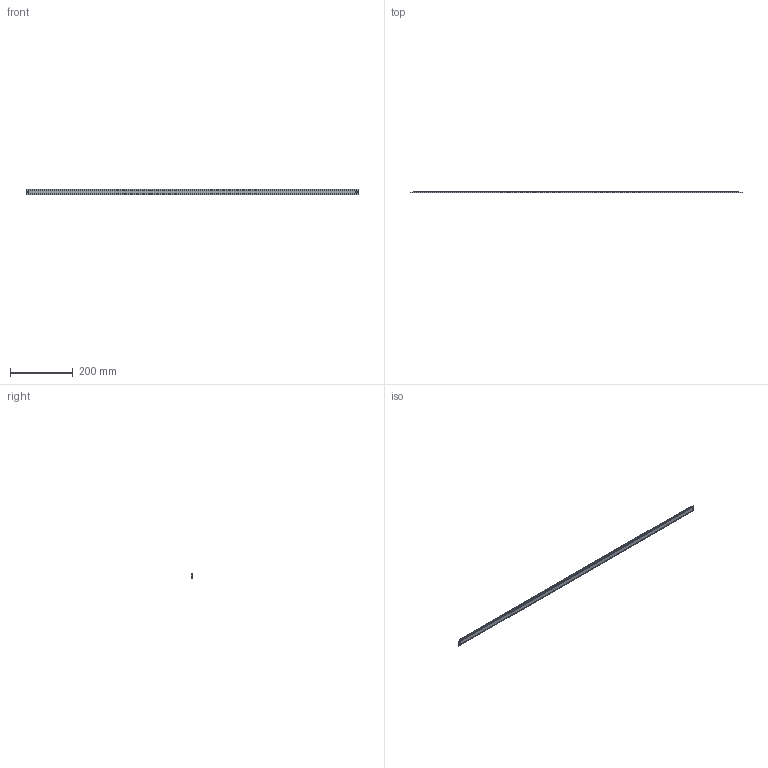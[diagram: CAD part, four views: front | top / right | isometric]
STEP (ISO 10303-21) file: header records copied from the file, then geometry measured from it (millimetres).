
FILE_DESCRIPTION (( 'STEP AP214' ), '1' );
FILE_NAME ('SAScale_exposed.ScaleLneght1060.STEP', '2026-03-10T09:13:27', ( '' ), ( '' ), 'SwSTEP 2.0', 'SolidWorks 2024', '' );
FILE_SCHEMA (( 'AUTOMOTIVE_DESIGN' ));
Length unit declared in the file: millimetre
Products named in the file (1): SAScale_exposed.ScaleLneght1060
Bounding box: 1060 x 6 x 18 mm (x, y, z)
Volume: 104692.4 mm3; surface area: 90776.1 mm2
Topology: 2 solids, 2 shells, 52 faces, 141 edges, 94 vertices
Faces by surface type: plane 37, cylinder 15
Entity records: 2247 total; most frequent: CARTESIAN_POINT 288, ORIENTED_EDGE 282, DIRECTION 277, EDGE_CURVE 141, VECTOR 111, LINE 111, VERTEX_POINT 94, AXIS2_PLACEMENT_3D 83
